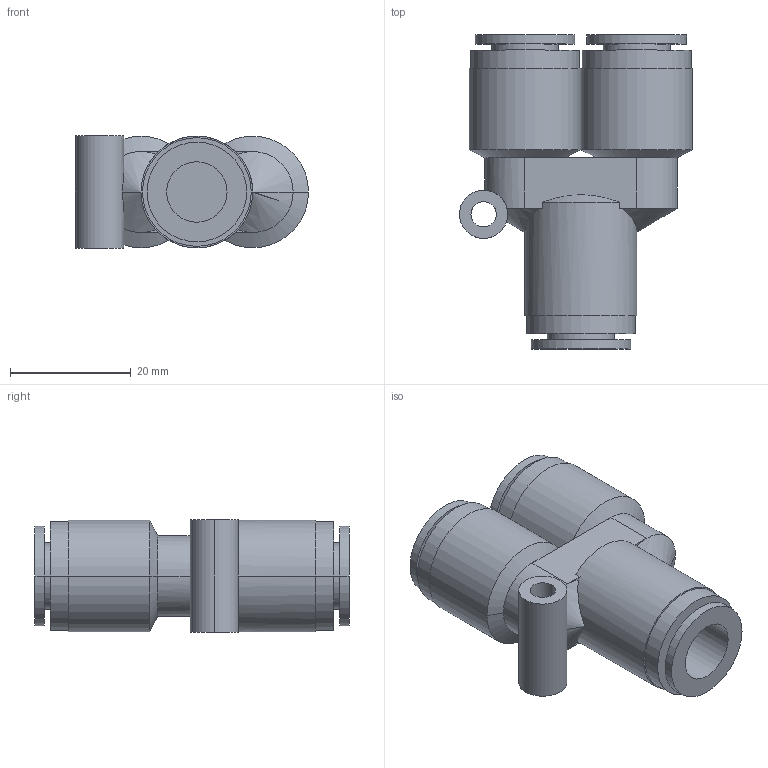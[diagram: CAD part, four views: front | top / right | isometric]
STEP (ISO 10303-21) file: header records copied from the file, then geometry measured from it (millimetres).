
FILE_DESCRIPTION( ( '' ), '1' );
FILE_NAME( 'G:/SMC狟婥/KPU10-00.stp', '2023-03-07T02:15:00', ( '' ), ( '' ), ' ', ' ', ' ' );
FILE_SCHEMA( ( 'CONFIG_CONTROL_DESIGN' ) );
Length unit declared in the file: millimetre
Products named in the file (1): 1
Bounding box: 38.59 x 52 x 18.7 mm (x, y, z)
Volume: 14814.5 mm3; surface area: 9002.9 mm2
Topology: 1 solids, 1 shells, 72 faces, 161 edges, 99 vertices
Faces by surface type: cylinder 38, plane 24, cone 10
Entity records: 2247 total; most frequent: CARTESIAN_POINT 561, DIRECTION 379, ORIENTED_EDGE 314, AXIS2_PLACEMENT_3D 161, EDGE_CURVE 157, VERTEX_POINT 99, CIRCLE 88, EDGE_LOOP 86
